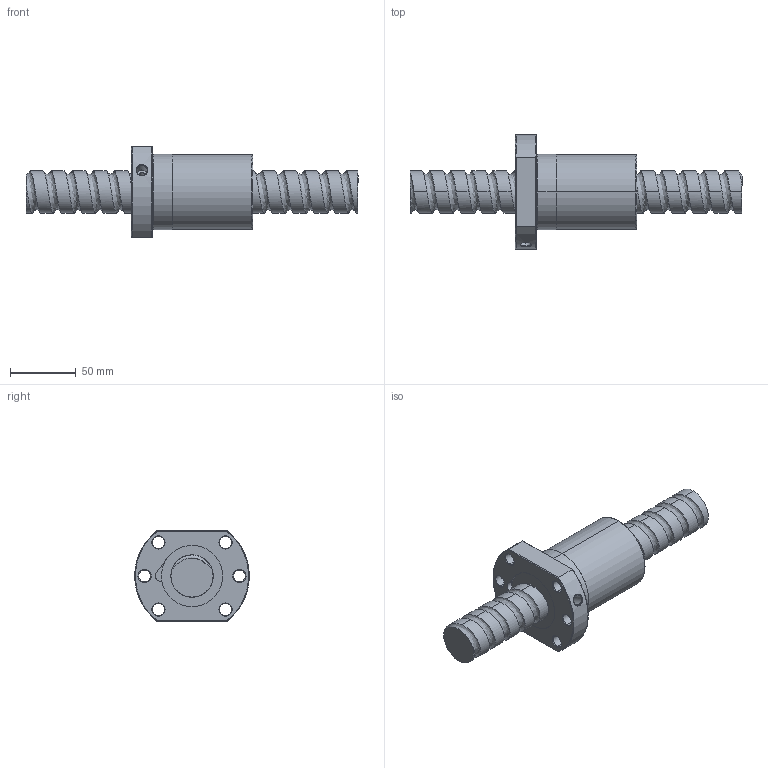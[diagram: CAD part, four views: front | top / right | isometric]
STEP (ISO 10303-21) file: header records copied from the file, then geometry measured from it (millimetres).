
FILE_DESCRIPTION (( 'STEP AP214' ), '1' );
FILE_NAME ('FSDC03216T4-F-C.STEP', '2010-06-25T12:02:59', ( 'XPAUTO' ), ( 'XPAUTO' ), 'SwSTEP 2.0', 'SolidWorks 2007', '' );
FILE_SCHEMA (( 'AUTOMOTIVE_DESIGN' ));
Length unit declared in the file: millimetre
Products named in the file (3): FSDC03216T4-F-C.sldasm-Part-2_預設; FSDC03216T4-F-C.sldasm-Part-1_預設; FSDC03216T4-F-C
Assembly tree (2 placements, depth 2):
  FSDC03216T4-F-C
    FSDC03216T4-F-C.sldasm-Part-2_預設
    FSDC03216T4-F-C.sldasm-Part-1_預設
Bounding box: 252 x 86.7 x 69 mm (x, y, z)
Volume: 380837.1 mm3; surface area: 68284.2 mm2
Topology: 2 solids, 2 shells, 128 faces, 318 edges, 199 vertices
Faces by surface type: cylinder 71, cone 24, plane 22, torus 6, bspline 5
Entity records: 25523 total; most frequent: CARTESIAN_POINT 22480, ORIENTED_EDGE 636, DIRECTION 590, EDGE_CURVE 318, AXIS2_PLACEMENT_3D 239, VERTEX_POINT 199, EDGE_LOOP 149, FACE_OUTER_BOUND 128
